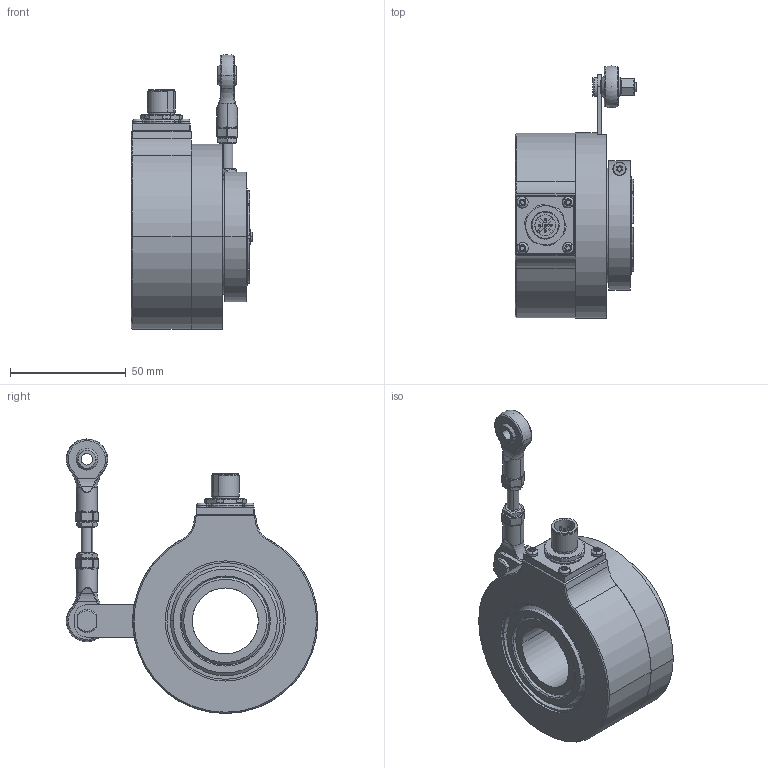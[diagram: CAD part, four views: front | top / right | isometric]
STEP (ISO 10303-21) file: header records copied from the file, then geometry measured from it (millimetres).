
FILE_DESCRIPTION (( 'STEP AP203' ), '1' );
FILE_NAME ('K80I.OXX.XXXXX.XH2588A.6XRC3.step', '2025-12-09T11:34:42', ( '' ), ( '' ), 'SwSTEP 2.0', 'SolidWorks 2021', '' );
FILE_SCHEMA (( 'CONFIG_CONTROL_DESIGN' ));
Length unit declared in the file: millimetre
Products named in the file (1): K80I.OXX.XXXXX.XH2588A.6XRC3
Bounding box: 52.6 x 108.97 x 119.08 mm (x, y, z)
Surface area: 76560.4 mm2 (no closed solid volume)
Topology: 0 solids, 21 shells, 825 faces, 2079 edges, 1298 vertices
Faces by surface type: plane 300, cylinder 280, cone 113, bspline 76, torus 42, sphere 14
Entity records: 28074 total; most frequent: CARTESIAN_POINT 8562, DIRECTION 4132, ORIENTED_EDGE 4066, EDGE_CURVE 2041, AXIS2_PLACEMENT_3D 1644, VERTEX_POINT 1294, EDGE_LOOP 897, CIRCLE 894
